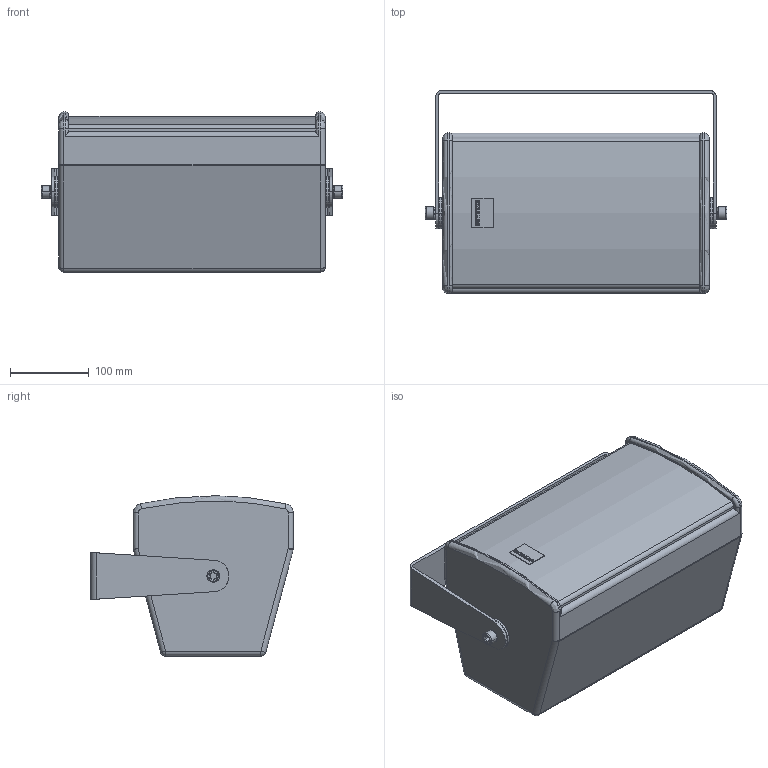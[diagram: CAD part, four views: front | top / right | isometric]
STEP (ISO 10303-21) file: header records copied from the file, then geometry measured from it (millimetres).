
FILE_DESCRIPTION (( 'STEP AP203' ), '1' );
FILE_NAME ('SEEBURG_A1_Bracket-hor.STEP', '2012-09-27T13:13:52', ( 'Fabian' ), ( '' ), 'SwSTEP 2.0', 'SolidWorks 2009', '' );
FILE_SCHEMA (( 'CONFIG_CONTROL_DESIGN' ));
Length unit declared in the file: millimetre
Products named in the file (2): SEEBURG_A1_Bracket-hor; A1_Bracket-hor
Assembly tree (1 placements, depth 2):
  SEEBURG_A1_Bracket-hor
    A1_Bracket-hor
Bounding box: 384.07 x 258 x 204 mm (x, y, z)
Volume: 4802934.8 mm3; surface area: 782700 mm2
Topology: 19 solids, 19 shells, 418 faces, 1042 edges, 673 vertices
Faces by surface type: cylinder 182, plane 163, torus 32, cone 28, sphere 9, bspline 4
Entity records: 12936 total; most frequent: CARTESIAN_POINT 2566, DIRECTION 2237, ORIENTED_EDGE 2080, EDGE_CURVE 1040, AXIS2_PLACEMENT_3D 844, VERTEX_POINT 672, VECTOR 549, LINE 549
